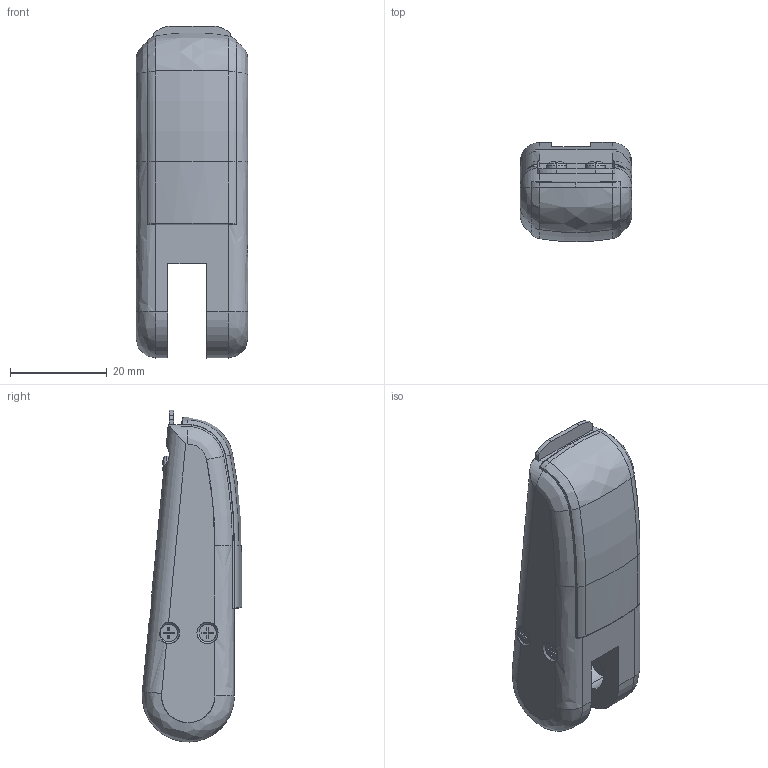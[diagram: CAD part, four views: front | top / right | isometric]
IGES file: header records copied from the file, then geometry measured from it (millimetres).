
Start section: SolidWorks IGES file using analytic representation for surfaces
Global section: file name: B4160.IGS; native system: SolidWorks 2010; preprocessor: SolidWorks 2010; author: dw; date: 101019.110917; units: millimetre
Bounding box: 23 x 20.55 x 68.49 mm (x, y, z)
Surface area: 6160.2 mm2 (no closed solid volume)
Topology: 0 solids, 0 shells, 245 faces, 2225 edges, 2225 vertices
Faces by surface type: bspline 180, revolution 65
